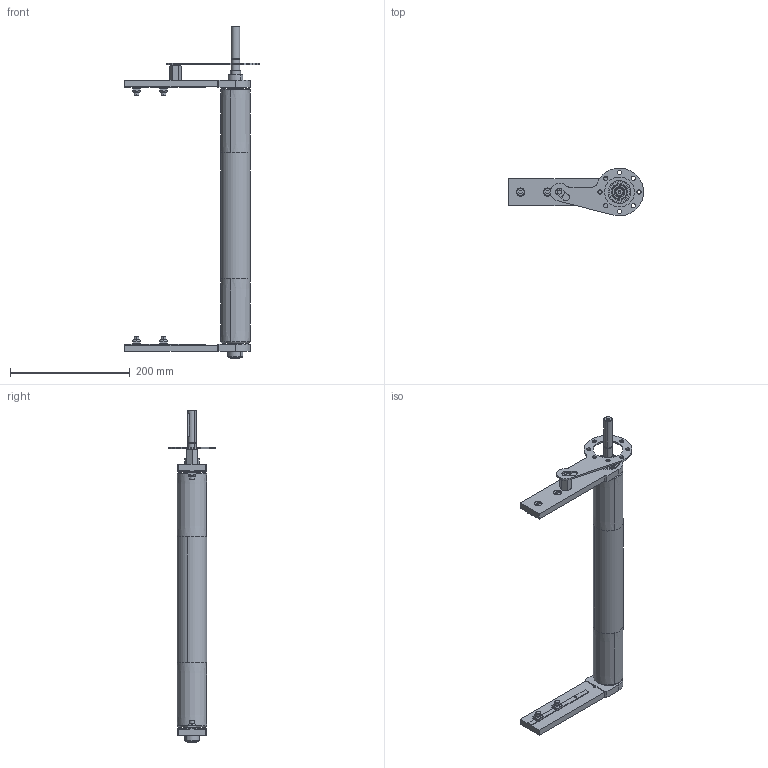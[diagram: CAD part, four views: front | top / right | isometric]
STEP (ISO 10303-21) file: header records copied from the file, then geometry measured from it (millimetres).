
FILE_DESCRIPTION (( 'STEP AP203' ), '1' );
FILE_NAME ('084.050.KD.30.400.STEP', '2014-10-02T09:09:30', ( '' ), ( '' ), 'SwSTEP 2.0', 'SolidWorks 2012', '' );
FILE_SCHEMA (( 'CONFIG_CONTROL_DESIGN' ));
Length unit declared in the file: millimetre
Products named in the file (1): 084.050.KD.30.400
Bounding box: 225 x 80 x 553.5 mm (x, y, z)
Volume: 563458.5 mm3; surface area: 320225.3 mm2
Topology: 21 solids, 23 shells, 610 faces, 1525 edges, 989 vertices
Faces by surface type: plane 258, cylinder 225, torus 68, cone 51, sphere 8
Entity records: 19014 total; most frequent: CARTESIAN_POINT 3778, DIRECTION 3397, ORIENTED_EDGE 3010, EDGE_CURVE 1505, AXIS2_PLACEMENT_3D 1350, VERTEX_POINT 979, CIRCLE 739, EDGE_LOOP 724
